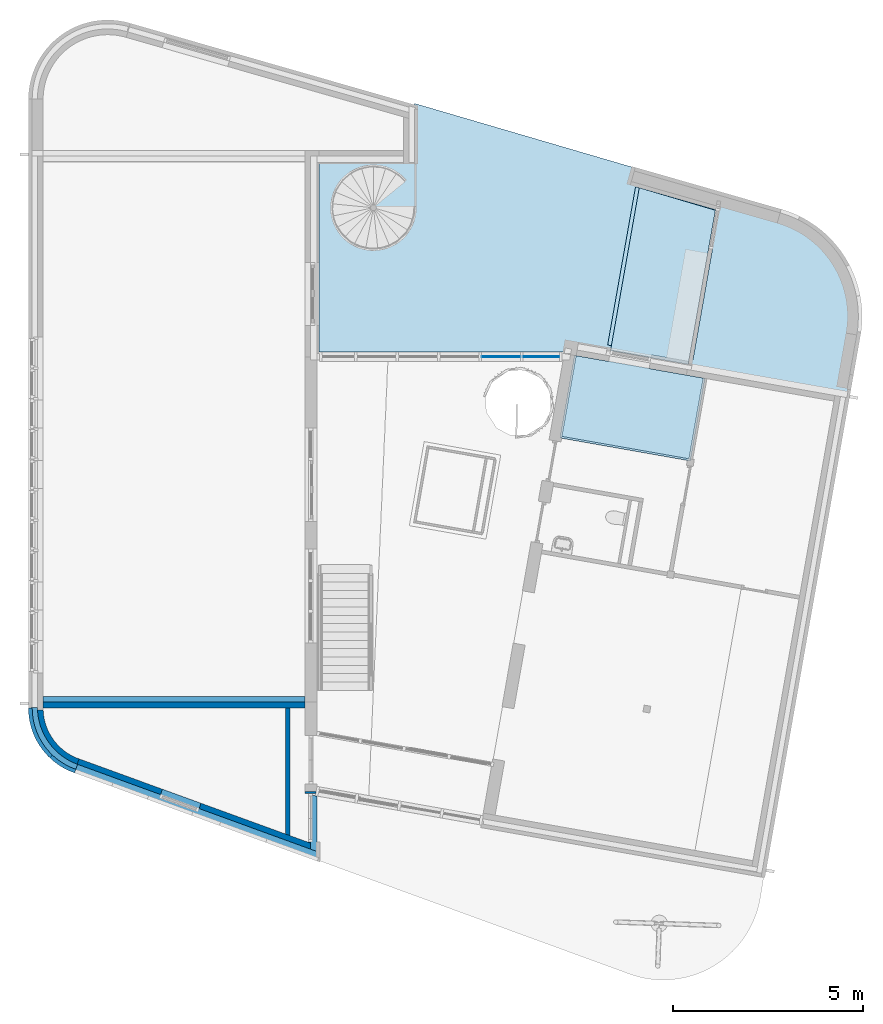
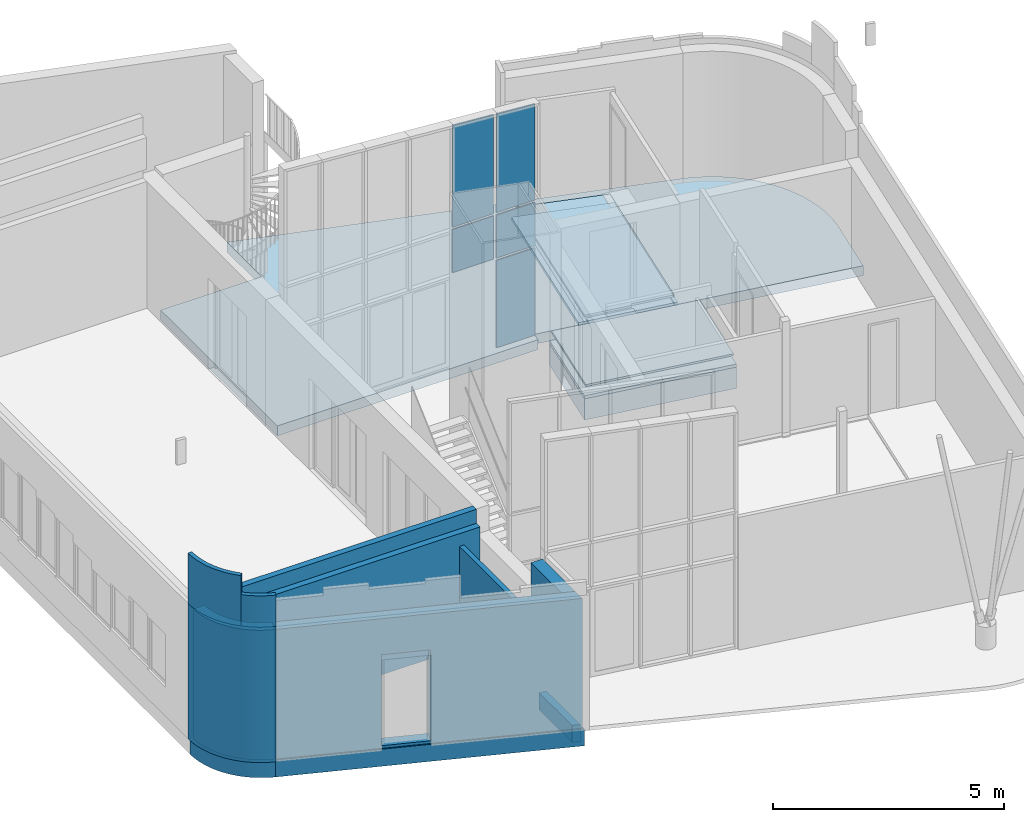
# One storey, part 10 of 21: 12 walls, 7 slabs, 5 plates, 2 openings, 1 element without a shape of its own.
"""IFC2X3 building model written with IfcOpenShell, lengths in millimetres."""

from ifc_helpers import new_model, entity, si_unit, converted_unit, derived_unit, direction, frame, frame_2d, origin, origin_2d_with_axis, place, context, subcontext, project, spatial, polyline, circle_curve, parameter, trimmed, segment, composite_curve, rectangle, outline, extrude, clip, bounded_halfspace, source, transform, mapped, material, layer, layer_set, layer_usage, type_object, type_shapes, element, aggregate, save


model = new_model("IFC2X3")

# Units and contexts
model_context = context("Model", 3, precision=0.01, world=origin(), true_north=direction((6.12303176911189e-17, 1.0)))
body_context = subcontext(model_context, "Body", "Model", "MODEL_VIEW")
ifc_project = project(units=[si_unit("LENGTHUNIT", "METRE", prefix="MILLI"), si_unit("AREAUNIT", "SQUARE_METRE"), si_unit("VOLUMEUNIT", "CUBIC_METRE"), converted_unit("PLANEANGLEUNIT", "DEGREE", entity("IfcRatioMeasure", 0.0174532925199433), si_unit("PLANEANGLEUNIT", "RADIAN"), dimensions=[0, 0, 0, 0, 0, 0, 0]), si_unit("MASSUNIT", "GRAM", prefix="KILO"), derived_unit("MASSDENSITYUNIT", [(si_unit("MASSUNIT", "GRAM", prefix="KILO"), 1), (si_unit("LENGTHUNIT", "METRE"), -3)]), si_unit("TIMEUNIT", "SECOND"), si_unit("FREQUENCYUNIT", "HERTZ"), si_unit("THERMODYNAMICTEMPERATUREUNIT", "DEGREE_CELSIUS"), derived_unit("THERMALTRANSMITTANCEUNIT", [(si_unit("MASSUNIT", "GRAM", prefix="KILO"), 1), (si_unit("THERMODYNAMICTEMPERATUREUNIT", "KELVIN"), -1), (si_unit("TIMEUNIT", "SECOND"), -3)]), derived_unit("VOLUMETRICFLOWRATEUNIT", [(si_unit("LENGTHUNIT", "METRE"), 3), (si_unit("TIMEUNIT", "SECOND"), -1)]), si_unit("ELECTRICCURRENTUNIT", "AMPERE"), si_unit("ELECTRICVOLTAGEUNIT", "VOLT"), si_unit("POWERUNIT", "WATT"), si_unit("FORCEUNIT", "NEWTON", prefix="KILO"), si_unit("ILLUMINANCEUNIT", "LUX"), si_unit("LUMINOUSFLUXUNIT", "LUMEN"), si_unit("LUMINOUSINTENSITYUNIT", "CANDELA"), derived_unit("USERDEFINED", [(si_unit("MASSUNIT", "GRAM", prefix="KILO"), -1), (si_unit("LENGTHUNIT", "METRE"), -2), (si_unit("TIMEUNIT", "SECOND"), 3), (si_unit("LUMINOUSFLUXUNIT", "LUMEN"), 1)]), derived_unit("LINEARVELOCITYUNIT", [(si_unit("LENGTHUNIT", "METRE"), 1), (si_unit("TIMEUNIT", "SECOND"), -1)]), si_unit("PRESSUREUNIT", "PASCAL"), derived_unit("USERDEFINED", [(si_unit("LENGTHUNIT", "METRE"), -2), (si_unit("MASSUNIT", "GRAM", prefix="KILO"), 1), (si_unit("TIMEUNIT", "SECOND"), -2)])], contexts=[model_context])

# Site, building, storey
site_placement = place(None, origin())
site = spatial("IfcSite", under=ifc_project, at=site_placement, Name="<Kadaster Gemeente>;<Kadaster nummer>;<Kadaster sectie>", CompositionType="ELEMENT")
building_placement = place(site_placement, origin())
building = spatial("IfcBuilding", under=site, at=building_placement, Name="JRCZ Middelburg", CompositionType="ELEMENT")
storey_placement = place(building_placement, origin())
storey = spatial("IfcBuildingStorey", under=building, at=storey_placement, Name="00 begane grond", CompositionType="ELEMENT", Elevation=0.0)

# Slab
ifc_material_1 = material(Name="RBM_f2_beton_prefab_gen")
ifc_layer_1 = layer(ifc_material_1, 260.0)
ifc_layer_set_1 = layer_set([ifc_layer_1], Name="Floor:RBM_23_FL_kanaalplaat-200mm_gen_rsf")
ifc_layer_usage_1 = layer_usage(ifc_layer_set_1, "AXIS3", "POSITIVE", 0.0)
slab_type_1 = type_object("IfcSlabType", Name="Floor:RBM_23_FL_kanaalplaat-200mm_gen_rsf", PredefinedType="FLOOR", material=ifc_layer_set_1)
slab_1_placement = place(storey_placement, origin())
element("IfcSlab", 1, at=slab_1_placement, inside=storey, type_object=slab_type_1, material=ifc_layer_usage_1, Name="Floor:RBM_23_FL_kanaalplaat-200mm_gen_rsf", ObjectType="Floor:RBM_23_FL_kanaalplaat-200mm_gen_rsf", PredefinedType="FLOOR", context=body_context, shape_type="SweptSolid", body=[
    extrude(outline(composite_curve([segment(polyline([(-2121.66625137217, -7295.94980181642), (2921.68540300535, -7295.94980181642)]), True, "CONTINUOUS"), segment(polyline([(2921.68540300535, -7295.94980181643), (2921.68540300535, -4774.31694097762)]), True, "CONTINUOUS"), segment(polyline([(2921.68540300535, -4774.31694097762), (4425.78273875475, -4774.31694097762)]), True, "CONTINUOUS"), segment(polyline([(4425.78273875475, -4774.31694097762), (1597.83055203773, 4890.05923230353)]), True, "CONTINUOUS"), segment(trimmed(circle_curve(frame_2d((-1207.13107671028, 4085.74942802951), x_axis=(0.961261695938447, 0.275637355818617)), 2918.0), [parameter(0.0)], [parameter(84.0000000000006)], True, "PARAMETER"), True, "CONTINUOUS"), segment(polyline([(-1713.83645914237, 6959.41845131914), (-3223.36861544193, 6693.24720391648)]), True, "CONTINUOUS"), segment(polyline([(-3223.36861544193, 6693.24720391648), (-2473.55578427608, 2440.84732640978)]), True, "CONTINUOUS"), segment(polyline([(-2473.55578427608, 2440.84732640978), (1608.03955632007, 3159.95435976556)]), True, "CONTINUOUS"), segment(polyline([(1608.03955632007, 3159.95435976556), (2201.23065038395, 1153.17582655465)]), True, "CONTINUOUS"), segment(polyline([(2201.23065038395, 1153.17582655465), (-2112.31414554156, 390.81042128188)]), True, "CONTINUOUS"), segment(polyline([(-2112.31414554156, 390.81042128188), (-1909.84679636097, -754.771440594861)]), True, "CONTINUOUS"), segment(polyline([(-1909.84679636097, -754.771440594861), (-2121.66625137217, -792.207895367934)]), True, "CONTINUOUS"), segment(polyline([(-2121.66625137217, -792.207895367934), (-2121.66625137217, -7295.94980181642)]), True, "CONTINUOUS")], self_intersect=False)), frame((24711.9498018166, 21360.3145969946, -200.0), z_axis=(0.0, 0.0, -1.0), x_axis=(0.0, 1.0, 0.0)), (0.0, 0.0, 1.0), 260.0),
])

# Curtain wall, plates
curtain_wall_type = type_object("IfcCurtainWallType", Name="Curtain Wall:Vliesgevel C", PredefinedType="NOTDEFINED")
curtain_wall_placement = place(storey_placement, origin())
curtain_wall = element("IfcCurtainWall", 2, at=curtain_wall_placement, inside=storey, type_object=curtain_wall_type, Name="Curtain Wall:Vliesgevel C", ObjectType="Curtain Wall:Vliesgevel C")
ifc_material_2 = material(Name="<Unnamed>")
ifc_layer_2 = layer(ifc_material_2, 24.0)
ifc_layer_set_2 = layer_set([ifc_layer_2], Name="System Panel:31_CWP_glas_1")
ifc_layer_usage_2 = layer_usage(ifc_layer_set_2, "AXIS3", "POSITIVE", 0.187007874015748)
plate_type_1 = type_object("IfcPlateType", Name="31_CWP_glas_1", PredefinedType="CURTAIN_PANEL", material=ifc_layer_set_2)
shared_shape_1 = source(origin(), body_context, "Body", "SweptSolid", [
    extrude(rectangle(XDim=24.0, YDim=959.103849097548, at=frame_2d((-4.44089209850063e-15, 0.0), x_axis=(1.0, 0.0))), frame((0.0, 57.0, 0.0), z_axis=(0.0, 0.0, 1.0), x_axis=(0.0, 1.0, 0.0)), (0.0, 0.0, 1.0), 2299.5),
])
type_shapes(plate_type_1, [shared_shape_1])
plate_1_placement = place(curtain_wall_placement, frame((23278.3899539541, 19046.62338787, 67.0)))
plate_1 = element("IfcPlate", 3, at=plate_1_placement, type_object=plate_type_1, material=ifc_layer_usage_2, Name="System Panel:31_CWP_glas_1", ObjectType="System Panel:31_CWP_glas_1", context=body_context, shape_type="MappedRepresentation", body=[
    mapped(shared_shape_1, transform((0.0, 0.0, 0.0), scale=1.0)),
])
ifc_layer_usage_3 = layer_usage(ifc_layer_set_2, "AXIS3", "POSITIVE", 0.187007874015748)
plate_type_2 = type_object("IfcPlateType", Name="31_CWP_glas_1", PredefinedType="CURTAIN_PANEL", material=ifc_layer_set_2)
shared_shape_2 = source(origin(), body_context, "Body", "SweptSolid", [
    extrude(rectangle(XDim=24.0, YDim=1027.72709861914, at=frame_2d((-4.44089209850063e-15, -1.13686837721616e-13), x_axis=(1.0, 0.0))), frame((0.0, 57.0, 0.0), z_axis=(0.0, 0.0, 1.0), x_axis=(0.0, 1.0, 0.0)), (0.0, 0.0, 1.0), 1133.0),
])
type_shapes(plate_type_2, [shared_shape_2])
plate_2_placement = place(curtain_wall_placement, frame((22217.9744800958, 19046.62338787, 2433.5)))
plate_2 = element("IfcPlate", 4, at=plate_2_placement, type_object=plate_type_2, material=ifc_layer_usage_3, Name="System Panel:31_CWP_glas_1", ObjectType="System Panel:31_CWP_glas_1", context=body_context, shape_type="MappedRepresentation", body=[
    mapped(shared_shape_2, transform((0.0, 0.0, 0.0), scale=1.0)),
])
ifc_layer_usage_4 = layer_usage(ifc_layer_set_2, "AXIS3", "POSITIVE", 0.187007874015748)
plate_type_3 = type_object("IfcPlateType", Name="31_CWP_glas_1", PredefinedType="CURTAIN_PANEL", material=ifc_layer_set_2)
shared_shape_3 = source(origin(), body_context, "Body", "SweptSolid", [
    extrude(rectangle(XDim=24.0, YDim=959.103849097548, at=frame_2d((-4.44089209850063e-15, 0.0), x_axis=(1.0, 0.0))), frame((0.0, 57.0, 0.0), z_axis=(0.0, 0.0, 1.0), x_axis=(0.0, 1.0, 0.0)), (0.0, 0.0, 1.0), 1133.0),
])
type_shapes(plate_type_3, [shared_shape_3])
plate_3_placement = place(curtain_wall_placement, frame((23278.3899539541, 19046.62338787, 2433.5)))
plate_3 = element("IfcPlate", 5, at=plate_3_placement, type_object=plate_type_3, material=ifc_layer_usage_4, Name="System Panel:31_CWP_glas_1", ObjectType="System Panel:31_CWP_glas_1", context=body_context, shape_type="MappedRepresentation", body=[
    mapped(shared_shape_3, transform((0.0, 0.0, 0.0), scale=1.0)),
])
ifc_layer_usage_5 = layer_usage(ifc_layer_set_2, "AXIS3", "POSITIVE", 0.187007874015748)
plate_type_4 = type_object("IfcPlateType", Name="31_CWP_glas_1", PredefinedType="CURTAIN_PANEL", material=ifc_layer_set_2)
shared_shape_4 = source(origin(), body_context, "Body", "SweptSolid", [
    extrude(outline(polyline([(-1326.61599293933, -513.863549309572), (1364.57025349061, -513.863549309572), (1288.66173238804, 513.863549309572), (-1326.61599293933, 513.863549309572), (-1326.61599293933, -513.863549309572)])), frame((0.0, 45.0, 1326.61599293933), z_axis=(0.0, 1.0, 0.0), x_axis=(0.0, 0.0, 1.0)), (0.0, 0.0, 1.0), 24.0),
])
type_shapes(plate_type_4, [shared_shape_4])
plate_4_placement = place(curtain_wall_placement, frame((22217.9744800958, 19046.62338787, 3633.5)))
plate_4 = element("IfcPlate", 6, at=plate_4_placement, type_object=plate_type_4, material=ifc_layer_usage_5, Name="System Panel:31_CWP_glas_1", ObjectType="System Panel:31_CWP_glas_1", context=body_context, shape_type="MappedRepresentation", body=[
    mapped(shared_shape_4, transform((0.0, 0.0, 0.0), scale=1.0)),
])
ifc_layer_usage_6 = layer_usage(ifc_layer_set_2, "AXIS3", "POSITIVE", 0.187007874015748)
plate_type_5 = type_object("IfcPlateType", Name="31_CWP_glas_1", PredefinedType="CURTAIN_PANEL", material=ifc_layer_set_2)
shared_shape_5 = source(origin(), body_context, "Body", "SweptSolid", [
    extrude(outline(polyline([(-1287.45454118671, -479.551924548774), (1322.87452518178, -479.551924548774), (1252.03455719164, 479.551924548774), (-1287.45454118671, 479.551924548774), (-1287.45454118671, -479.551924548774)])), frame((0.0, 45.0, 1287.45454118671), z_axis=(0.0, 1.0, 0.0), x_axis=(0.0, 0.0, 1.0)), (0.0, 0.0, 1.0), 24.0),
])
type_shapes(plate_type_5, [shared_shape_5])
plate_5_placement = place(curtain_wall_placement, frame((23278.3899539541, 19046.62338787, 3633.5)))
plate_5 = element("IfcPlate", 7, at=plate_5_placement, type_object=plate_type_5, material=ifc_layer_usage_6, Name="System Panel:31_CWP_glas_1", ObjectType="System Panel:31_CWP_glas_1", context=body_context, shape_type="MappedRepresentation", body=[
    mapped(shared_shape_5, transform((0.0, 0.0, 0.0), scale=1.0)),
])
aggregate(curtain_wall, [plate_1, plate_2, plate_3, plate_4, plate_5])

# Slabs
ifc_material_3 = material(Name="RBM_f2_beton_ihwg C20-25")
ifc_layer_3 = layer(ifc_material_3, 80.0)
ifc_layer_set_3 = layer_set([ifc_layer_3], Name="Floor:RBM_23_FL_gewapende druklaag gevlinderd")
ifc_layer_usage_7 = layer_usage(ifc_layer_set_3, "AXIS3", "POSITIVE", 0.0)
slab_type_2 = type_object("IfcSlabType", Name="Floor:RBM_23_FL_gewapende druklaag gevlinderd", PredefinedType="FLOOR", material=ifc_layer_set_3)
slab_2_placement = place(storey_placement, origin())
element("IfcSlab", 8, at=slab_2_placement, inside=storey, type_object=slab_type_2, material=ifc_layer_usage_7, Name="Floor:RBM_23_FL_gewapende druklaag gevlinderd", ObjectType="Floor:RBM_23_FL_gewapende druklaag gevlinderd", PredefinedType="FLOOR", context=body_context, shape_type="SweptSolid", body=[
    extrude(rectangle(XDim=2209.24038765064, YDim=3499.24038765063, at=frame_2d((-5.00222085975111e-12, -3.5242919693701e-12), x_axis=(1.0, 0.0))), frame((25683.80847774, 17751.9860733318, -250.0), z_axis=(0.0, 0.0, -1.0), x_axis=(-0.173648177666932, -0.984807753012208, 0.0)), (0.0, 0.0, 1.0), 80.0),
])
ifc_material_4 = material(Name="RBM_n7_isolatie_hsb_245")
ifc_layer_4 = layer(ifc_material_4, 560.0)
ifc_layer_set_4 = layer_set([ifc_layer_4], Name="Floor:RBM_23_FL_tempex 690mm")
ifc_layer_usage_8 = layer_usage(ifc_layer_set_4, "AXIS3", "POSITIVE", 0.0)
slab_type_3 = type_object("IfcSlabType", Name="Floor:RBM_23_FL_tempex 690mm", PredefinedType="FLOOR", material=ifc_layer_set_4)
slab_3_placement = place(storey_placement, origin())
element("IfcSlab", 9, at=slab_3_placement, inside=storey, type_object=slab_type_3, material=ifc_layer_usage_8, Name="Floor:RBM_23_FL_tempex 690mm", ObjectType="Floor:RBM_23_FL_tempex 690mm", PredefinedType="FLOOR", context=body_context, shape_type="SweptSolid", body=[
    extrude(rectangle(XDim=2209.24038765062, YDim=3499.24038765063, at=frame_2d((-3.63797880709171e-12, -1.70530256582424e-12), x_axis=(1.0, 0.0))), frame((25683.80847774, 17751.9860733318, -330.0), z_axis=(0.0, 0.0, -1.0), x_axis=(-0.173648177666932, -0.984807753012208, 0.0)), (0.0, 0.0, 1.0), 560.0),
])
ifc_layer_usage_9 = layer_usage(ifc_layer_set_1, "AXIS3", "POSITIVE", 0.0)
slab_type_4 = type_object("IfcSlabType", Name="Floor:RBM_23_FL_kanaalplaat-200mm_gen_rsf", PredefinedType="FLOOR", material=ifc_layer_set_1)
slab_4_placement = place(storey_placement, origin())
element("IfcSlab", 10, at=slab_4_placement, inside=storey, type_object=slab_type_4, material=ifc_layer_usage_9, Name="Floor:RBM_23_FL_kanaalplaat-200mm_gen_rsf", ObjectType="Floor:RBM_23_FL_kanaalplaat-200mm_gen_rsf", PredefinedType="FLOOR", context=body_context, shape_type="SweptSolid", body=[
    extrude(outline(polyline([(-2003.43613425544, -1039.94489755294), (2121.17031969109, -1039.94489755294), (2121.17031969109, 1039.94489755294), (-2238.90450512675, 1039.94489755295), (-2003.43613425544, -1039.94489755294)])), frame((26499.6101696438, 21176.1345983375, -250.0), z_axis=(0.0, 0.0, -1.0), x_axis=(-0.173788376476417, -0.984783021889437, 0.0)), (0.0, 0.0, 1.0), 260.0),
])
ifc_material_5 = material(Name="RBM_h2_staal_vloerrooster")
ifc_layer_5 = layer(ifc_material_5, 50.0)
ifc_layer_set_5 = layer_set([ifc_layer_5], Name="Floor:RBM_43_FL_roostervloer")
ifc_layer_usage_10 = layer_usage(ifc_layer_set_5, "AXIS3", "POSITIVE", 0.0)
slab_type_5 = type_object("IfcSlabType", Name="Floor:RBM_43_FL_roostervloer", PredefinedType="FLOOR", material=ifc_layer_set_5)
slab_5_placement = place(storey_placement, origin())
element("IfcSlab", 11, at=slab_5_placement, inside=storey, type_object=slab_type_5, material=ifc_layer_usage_10, Name="Floor:RBM_43_FL_roostervloer", ObjectType="Floor:RBM_43_FL_roostervloer", PredefinedType="FLOOR", context=body_context, shape_type="SweptSolid", body=[
    extrude(outline(polyline([(-2677.67275640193, -1025.75685243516), (1368.78560556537, -1025.75685243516), (1368.78560556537, -28.6511997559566), (1426.78560556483, -28.6511997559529), (1426.78560556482, 1054.40805219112), (-2913.46966585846, 1054.40805219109), (-2677.67275640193, -1025.75685243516)])), frame((26396.757866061, 20509.4820709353, 0.0), z_axis=(0.0, 0.0, -1.0), x_axis=(-0.173648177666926, -0.984807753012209, 0.0)), (0.0, 0.0, 1.0), 50.0),
])
ifc_layer_usage_11 = layer_usage(ifc_layer_set_5, "AXIS3", "POSITIVE", 0.0)
slab_type_6 = type_object("IfcSlabType", Name="Floor:RBM_43_FL_roostervloer", PredefinedType="FLOOR", material=ifc_layer_set_5)
slab_6_placement = place(storey_placement, origin())
element("IfcSlab", 12, at=slab_6_placement, inside=storey, type_object=slab_type_6, material=ifc_layer_usage_11, Name="Floor:RBM_43_FL_roostervloer", ObjectType="Floor:RBM_43_FL_roostervloer", PredefinedType="FLOOR", context=body_context, shape_type="SweptSolid", body=[
    extrude(outline(polyline([(-491.499999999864, -1844.84253192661), (1668.50000000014, -1844.84253192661), (1668.50000000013, 1555.15746807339), (-491.499999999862, 1555.15746807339), (-491.499999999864, 686.842531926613), (-685.500000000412, 686.842531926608), (-685.500000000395, -397.157468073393), (-491.499999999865, -397.15746807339), (-491.499999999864, -1844.84253192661)])), frame((25647.2595976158, 18381.0091881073, 0.0), z_axis=(0.0, 0.0, -1.0), x_axis=(-0.17364817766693, -0.984807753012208, 0.0)), (0.0, 0.0, 1.0), 50.0),
])
ifc_layer_usage_12 = layer_usage(ifc_layer_set_3, "AXIS3", "POSITIVE", 0.0)
slab_type_7 = type_object("IfcSlabType", Name="Floor:RBM_23_FL_gewapende druklaag gevlinderd", PredefinedType="FLOOR", material=ifc_layer_set_3)
slab_7_placement = place(storey_placement, origin())
element("IfcSlab", 13, at=slab_7_placement, inside=storey, type_object=slab_type_7, material=ifc_layer_usage_12, Name="Floor:RBM_23_FL_gewapende druklaag gevlinderd", ObjectType="Floor:RBM_23_FL_gewapende druklaag gevlinderd", PredefinedType="FLOOR", context=body_context, shape_type="SweptSolid", body=[
    extrude(outline(polyline([(-1939.61688688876, -1140.5528263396), (2059.49381948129, -1140.5528263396), (2059.49381948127, 1140.55282633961), (-2179.37075207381, 1140.55282633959), (-1939.61688688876, -1140.5528263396)])), frame((26511.5039004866, 21245.4457876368, -250.0), z_axis=(0.0, 0.0, -1.0), x_axis=(-0.173648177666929, -0.984807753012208, 0.0)), (0.0, 0.0, 1.0), 80.0),
])

# Wall
ifc_material_6 = material(Name="RBM_i4_multiplex_beplating")
ifc_layer_6 = layer(ifc_material_6, 18.0)
ifc_material_7 = material(Name="isolatie_steenwol_hsb_270")
ifc_layer_7 = layer(ifc_material_7, 270.0)
ifc_layer_8 = layer(ifc_material_6, 18.0)
ifc_layer_set_6 = layer_set([ifc_layer_6, ifc_layer_7, ifc_layer_8], Name="Basic Wall:22_WA_hsb_binnenwand_306mm")
ifc_layer_usage_13 = layer_usage(ifc_layer_set_6, "AXIS2", "NEGATIVE", 153.0)
wall_type_1 = type_object("IfcWallType", Name="Basic Wall:22_WA_hsb_binnenwand_306mm", PredefinedType="STANDARD", material=ifc_layer_set_6)
wall_1_placement = place(storey_placement, frame((17050.0, 9997.0, -80.0), z_axis=(0.0, 0.0, 1.0), x_axis=(-1.0, 0.0, 0.0)))
element("IfcWallStandardCase", 14, at=wall_1_placement, inside=storey, type_object=wall_type_1, material=ifc_layer_usage_13, Name="Basic Wall:22_WA_hsb_binnenwand_306mm", ObjectType="Basic Wall:22_WA_hsb_binnenwand_306mm", context=body_context, shape_type="SweptSolid", body=[
    extrude(rectangle(XDim=6900.0, YDim=306.0, at=frame_2d((3450.0, -1.06581410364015e-12), x_axis=(-1.0, 0.0))), origin(), (0.0, 0.0, 1.0), 3045.0),
])

# Wall, opening
ifc_layer_9 = layer(ifc_material_7, 270.0)
ifc_layer_10 = layer(ifc_material_6, 18.0)
ifc_layer_set_7 = layer_set([ifc_layer_9, ifc_layer_10], Name="Basic Wall:21_RBM_WA_hsb_270mm -  geïsoleerd")
ifc_layer_usage_14 = layer_usage(ifc_layer_set_7, "AXIS2", "POSITIVE", -144.0)
wall_type_2 = type_object("IfcWallType", Name="Basic Wall:21_RBM_WA_hsb_270mm -  geïsoleerd", PredefinedType="STANDARD", material=ifc_layer_set_7)
wall_2_placement = place(storey_placement, frame((17200.0, 6233.57866799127, 0.0), z_axis=(0.0, 0.0, 1.0), x_axis=(0.0, 1.0, 0.0)))
wall_2 = element("IfcWallStandardCase", 15, at=wall_2_placement, inside=storey, type_object=wall_type_2, material=ifc_layer_usage_14, Name="Basic Wall:21_RBM_WA_hsb_270mm -  geïsoleerd", ObjectType="Basic Wall:21_RBM_WA_hsb_270mm -  geïsoleerd", context=body_context, shape_type="SweptSolid", body=[
    extrude(outline(polyline([(0.0, -144.0), (1415.044956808, -144.0), (1415.04495680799, 144.0), (104.823427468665, 144.0), (0.0, -144.0)])), origin(), (0.0, 0.0, 1.0), 3350.0),
])
opening_1_placement = place(wall_2_placement, origin())
element("IfcOpeningElement", 16, at=opening_1_placement, cuts=wall_2, Name="Basic Wall:21_RBM_WA_hsb_270mm -  geïsoleerd", ObjectType="Opening", context=body_context, shape_type="SweptSolid", body=[
    extrude(rectangle(XDim=2400.0, YDim=1280.0, at=origin_2d_with_axis()), frame((718.383495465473, -296.399999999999, 1200.0), z_axis=(0.0, 1.0, 0.0), x_axis=(0.0, 0.0, 1.0)), (0.0, 0.0, 1.0), 592.8),
])

ifc_layer_usage_15 = layer_usage(ifc_layer_set_7, "AXIS2", "POSITIVE", -144.0)
wall_3_placement = place(storey_placement, frame((11048.3642880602, 8371.76107368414, -70.0), z_axis=(0.0, 0.0, 1.0), x_axis=(0.93969262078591, -0.342020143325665, 0.0)))
wall_3 = element("IfcWallStandardCase", 17, at=wall_3_placement, inside=storey, type_object=wall_type_2, material=ifc_layer_usage_15, Name="Basic Wall:21_RBM_WA_hsb_270mm -  geïsoleerd", ObjectType="Basic Wall:21_RBM_WA_hsb_270mm -  geïsoleerd", context=body_context, shape_type="SweptSolid", body=[
    extrude(outline(polyline([(6752.08730198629, -144.0), (6647.26387451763, 144.0), (0.0, 144.0), (0.0, -144.0), (6752.08730198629, -144.0)])), origin(), (0.0, 0.0, 1.0), 3420.0),
])
opening_2_placement = place(wall_3_placement, origin())
element("IfcOpeningElement", 18, at=opening_2_placement, cuts=wall_3, Name="Basic Wall:21_RBM_WA_hsb_270mm -  geïsoleerd", ObjectType="Opening", context=body_context, shape_type="SweptSolid", body=[
    extrude(rectangle(XDim=2400.0, YDim=1084.0, at=origin_2d_with_axis()), frame((2880.90891550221, -296.400000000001, 1270.0), z_axis=(0.0, 1.0, 0.0), x_axis=(0.0, 0.0, 1.0)), (0.0, 0.0, 1.0), 592.799999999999),
])

# Walls
ifc_layer_usage_16 = layer_usage(ifc_layer_set_7, "AXIS2", "POSITIVE", -144.0)
wall_4_placement = place(storey_placement, frame((11049.4464960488, 8371.19306263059, -70.0)))
element("IfcWallStandardCase", 19, at=wall_4_placement, inside=storey, type_object=wall_type_2, material=ifc_layer_usage_16, Name="Basic Wall:21_RBM_WA_hsb_270mm -  geïsoleerd", ObjectType="Basic Wall:21_RBM_WA_hsb_270mm -  geïsoleerd", context=body_context, shape_type="SweptSolid", body=[
    extrude(outline(composite_curve([segment(trimmed(circle_curve(frame_2d((522.823697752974, 1476.43903648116), x_axis=(1.0, 0.0)), 1710.27483136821), [parameter(182.131811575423)], [parameter(250.50037193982)], True, "PARAMETER"), True, "CONTINUOUS"), segment(polyline([(-48.0673065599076, -135.74068675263), (48.067306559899, 135.740686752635)]), True, "CONTINUOUS"), segment(trimmed(circle_curve(frame_2d((522.823697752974, 1476.43903648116), x_axis=(1.0, 0.0)), 1422.27483136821), [parameter(182.131811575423)], [parameter(250.50037193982)], True, "PARAMETER"), False, "CONTINUOUS"), segment(polyline([(-898.466769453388, 1423.53247949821), (-1186.26744308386, 1412.81929799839)]), True, "CONTINUOUS")], self_intersect=False)), origin(), (0.0, 0.0, 1.0), 3420.0),
])
ifc_material_8 = material(Name="steenachtig_ntb_plaat_antraciet")
ifc_layer_11 = layer(ifc_material_8, 20.0)
ifc_material_9 = material(Name="RBM_n7_isolatie_hsb_100")
ifc_layer_12 = layer(ifc_material_9, 100.0)
ifc_layer_set_8 = layer_set([ifc_layer_11, ifc_layer_12], Name="Basic Wall:21_hsb_100mm")
ifc_layer_usage_17 = layer_usage(ifc_layer_set_8, "AXIS2", "NEGATIVE", 60.0)
wall_type_3 = type_object("IfcWallType", Name="Basic Wall:21_hsb_100mm", PredefinedType="STANDARD", material=ifc_layer_set_8)
wall_5_placement = place(storey_placement, frame((16596.0, 6483.99018916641, 0.0), z_axis=(0.0, 0.0, 1.0), x_axis=(0.0, 1.0, 0.0)))
element("IfcWallStandardCase", 20, at=wall_5_placement, inside=storey, type_object=wall_type_3, material=ifc_layer_usage_17, Name="Basic Wall:21_hsb_100mm", ObjectType="Basic Wall:21_hsb_100mm", context=body_context, shape_type="SweptSolid", body=[
    extrude(outline(polyline([(3360.00981083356, -60.0), (3360.00981083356, 60.0), (43.6764281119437, 60.0), (0.0, -60.0), (3360.00981083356, -60.0)])), origin(), (0.0, 0.0, 1.0), 2630.0),
])
ifc_material_10 = material(Name="geisoleerde cementvezelplaat")
ifc_layer_13 = layer(ifc_material_10, 20.0)
ifc_material_11 = material(Name="RBM_n7_isolatie_resol")
ifc_layer_14 = layer(ifc_material_11, 150.0)
ifc_layer_set_9 = layer_set([ifc_layer_13, ifc_layer_14], Name="Basic Wall:RBM_21_WA_170mm_geïsoleerde_kantplank")
ifc_layer_usage_18 = layer_usage(ifc_layer_set_9, "AXIS2", "NEGATIVE", 85.0)
wall_type_4 = type_object("IfcWallType", Name="Basic Wall:RBM_21_WA_170mm_geïsoleerde_kantplank", PredefinedType="STANDARD", material=ifc_layer_set_9)
wall_6_placement = place(storey_placement, frame((17399.0717121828, 5963.45242747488, -520.0), z_axis=(0.0, 0.0, 1.0), x_axis=(-0.939692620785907, 0.342020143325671, 0.0)))
element("IfcWallStandardCase", 21, at=wall_6_placement, inside=storey, type_object=wall_type_4, material=ifc_layer_usage_18, Name="Basic Wall:RBM_21_WA_170mm_geïsoleerde_kantplank", ObjectType="Basic Wall:RBM_21_WA_170mm_geïsoleerde_kantplank", context=body_context, shape_type="SweptSolid", body=[
    extrude(outline(polyline([(6778.48680088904, -85.0), (6778.48680088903, 85.0), (0.0, 85.0), (61.8749398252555, -85.0), (242.785161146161, -85.0), (6778.48680088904, -85.0)])), origin(), (0.0, 0.0, 1.0), 450.0),
])
ifc_layer_usage_19 = layer_usage(ifc_layer_set_9, "AXIS2", "POSITIVE", -85.0)
wall_7_placement = place(storey_placement, frame((11029.377685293, 8281.831454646, -520.0)))
element("IfcWallStandardCase", 22, at=wall_7_placement, inside=storey, type_object=wall_type_4, material=ifc_layer_usage_19, Name="Basic Wall:RBM_21_WA_170mm_geïsoleerde_kantplank", ObjectType="Basic Wall:RBM_21_WA_170mm_geïsoleerde_kantplank", context=body_context, shape_type="SweptSolid", body=[
    extrude(outline(composite_curve([segment(trimmed(circle_curve(frame_2d((579.263208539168, 1591.51258538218), x_axis=(1.0, 0.0)), 1778.65231797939), [parameter(180.20535450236)], [parameter(249.999999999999)], True, "PARAMETER"), True, "CONTINUOUS"), segment(polyline([(-29.0717121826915, -79.8738727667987), (29.0717121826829, 79.8738727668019)]), True, "CONTINUOUS"), segment(trimmed(circle_curve(frame_2d((579.263208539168, 1591.51258538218), x_axis=(1.0, 0.0)), 1608.65231797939), [parameter(180.215932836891)], [parameter(250.0)], True, "PARAMETER"), False, "CONTINUOUS"), segment(polyline([(-1029.37768529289, 1585.45000905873), (-1199.37768529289, 1585.13770955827)]), True, "CONTINUOUS")], self_intersect=False)), origin(), (0.0, 0.0, 1.0), 450.0),
])
ifc_layer_usage_20 = layer_usage(ifc_layer_set_9, "AXIS2", "NEGATIVE", 85.0)
wall_8_placement = place(storey_placement, frame((17285.0, 7554.8873059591, -520.0), z_axis=(0.0, 0.0, 1.0), x_axis=(0.0, -1.0, 0.0)))
element("IfcWallStandardCase", 23, at=wall_8_placement, inside=storey, type_object=wall_type_4, material=ifc_layer_usage_20, Name="Basic Wall:RBM_21_WA_170mm_geïsoleerde_kantplank", ObjectType="Basic Wall:RBM_21_WA_170mm_geïsoleerde_kantplank", context=body_context, shape_type="SweptSolid", body=[
    extrude(outline(polyline([(1428.52359010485, -85.0), (1490.39852993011, 85.0), (29.9755867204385, 85.0), (0.0, -85.0), (1428.52359010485, -85.0)])), origin(), (0.0, 0.0, 1.0), 450.0),
])
ifc_material_12 = material(Name="hout_accoya_schubben")
ifc_layer_15 = layer(ifc_material_12, 30.0)
ifc_material_13 = material(Name="hout_vuren_regel")
ifc_layer_16 = layer(ifc_material_13, 35.0)
ifc_layer_17 = layer(ifc_material_13, 35.0)
ifc_layer_set_10 = layer_set([ifc_layer_15, ifc_layer_16, ifc_layer_17], Name="Basic Wall:RBM_21_WA_gevelbekleding op regelwerk_100mm")
ifc_layer_usage_21 = layer_usage(ifc_layer_set_10, "AXIS2", "POSITIVE", -50.0)
wall_type_5 = type_object("IfcWallType", Name="Basic Wall:RBM_21_WA_gevelbekleding op regelwerk_100mm", PredefinedType="STANDARD", material=ifc_layer_set_10)
wall_9_placement = place(storey_placement, frame((10997.8118593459, 8183.7175151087, -70.0)))
element("IfcWallStandardCase", 24, at=wall_9_placement, inside=storey, type_object=wall_type_5, material=ifc_layer_usage_21, Name="Basic Wall:RBM_21_WA_gevelbekleding op regelwerk_100mm", ObjectType="Basic Wall:RBM_21_WA_gevelbekleding op regelwerk_100mm", context=body_context, shape_type="SweptSolid", body=[
    extrude(outline(composite_curve([segment(trimmed(circle_curve(frame_2d((574.481076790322, 1663.91687151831), x_axis=(1.0, 0.0)), 1810.29766315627), [parameter(180.130935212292)], [parameter(250.925664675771)], True, "PARAMETER"), True, "CONTINUOUS"), segment(polyline([(-17.1144099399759, -46.9871027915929), (16.3177253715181, 47.2623723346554)]), True, "CONTINUOUS"), segment(trimmed(circle_curve(frame_2d((574.481076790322, 1663.91687151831), x_axis=(1.0, 0.0)), 1710.29766315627), [parameter(180.134708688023)], [parameter(250.952342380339)], True, "PARAMETER"), False, "CONTINUOUS"), segment(polyline([(-1135.81185934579, 1659.89577704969), (-1235.81185934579, 1659.77989136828)]), True, "CONTINUOUS")], self_intersect=False)), origin(), (0.0, 0.0, 1.0), 3570.0),
])
ifc_layer_usage_22 = layer_usage(ifc_layer_set_10, "AXIS2", "POSITIVE", -50.0)
wall_10_placement = place(storey_placement, frame((10997.8118593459, 8183.7175151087, 3500.0)))
element("IfcWallStandardCase", 25, at=wall_10_placement, inside=storey, type_object=wall_type_5, material=ifc_layer_usage_22, Name="Basic Wall:RBM_21_WA_gevelbekleding op regelwerk_100mm", ObjectType="Basic Wall:RBM_21_WA_gevelbekleding op regelwerk_100mm", context=body_context, shape_type="SweptSolid", body=[
    extrude(outline(composite_curve([segment(trimmed(circle_curve(frame_2d((574.481076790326, 1663.91687151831), x_axis=(1.0, 0.0)), 1810.29766315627), [parameter(226.474831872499)], [parameter(250.925664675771)], True, "PARAMETER"), True, "CONTINUOUS"), segment(polyline([(-17.1144099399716, -46.9871027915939), (16.3177253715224, 47.2623723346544)]), True, "CONTINUOUS"), segment(trimmed(circle_curve(frame_2d((574.481076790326, 1663.91687151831), x_axis=(1.0, 0.0)), 1710.29766315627), [parameter(226.474831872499)], [parameter(250.952342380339)], True, "PARAMETER"), False, "CONTINUOUS"), segment(polyline([(-603.354988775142, 423.82804435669), (-672.222302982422, 351.320851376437)]), True, "CONTINUOUS")], self_intersect=False)), origin(), (0.0, 0.0, 1.0), 827.981832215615),
])
ifc_layer_usage_23 = layer_usage(ifc_layer_set_10, "AXIS2", "POSITIVE", -50.0)
wall_11_placement = place(storey_placement, frame((10360.0232134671, 8571.29196297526, 3500.0)))
element("IfcWallStandardCase", 26, at=wall_11_placement, inside=storey, type_object=wall_type_5, material=ifc_layer_usage_23, Name="Basic Wall:RBM_21_WA_gevelbekleding op regelwerk_100mm", ObjectType="Basic Wall:RBM_21_WA_gevelbekleding op regelwerk_100mm", context=body_context, shape_type="SweptSolid", body=[
    extrude(outline(composite_curve([segment(trimmed(circle_curve(frame_2d((1212.2697226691, 1276.34242365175), x_axis=(1.0, 0.0)), 1810.29766315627), [parameter(180.130935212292)], [parameter(226.474831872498)], True, "PARAMETER"), True, "CONTINUOUS"), segment(polyline([(-34.4336571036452, -36.2535964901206), (34.4336571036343, 36.2535964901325)]), True, "CONTINUOUS"), segment(trimmed(circle_curve(frame_2d((1212.2697226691, 1276.34242365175), x_axis=(1.0, 0.0)), 1710.29766315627), [parameter(180.134708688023)], [parameter(226.474831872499)], True, "PARAMETER"), False, "CONTINUOUS"), segment(polyline([(-498.023213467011, 1272.32132918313), (-598.02321346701, 1272.20544350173)]), True, "CONTINUOUS")], self_intersect=False)), origin(), (0.0, 0.0, 1.0), 1327.98183221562),
])
ifc_layer_18 = layer(ifc_material_7, 132.0)
ifc_layer_19 = layer(ifc_material_6, 18.0)
ifc_layer_set_11 = layer_set([ifc_layer_18, ifc_layer_19], Name="Basic Wall:22_hsb_270 passtrook")
ifc_layer_usage_24 = layer_usage(ifc_layer_set_11, "AXIS2", "NEGATIVE", 75.0)
wall_type_6 = type_object("IfcWallType", Name="Basic Wall:22_hsb_270 passtrook", PredefinedType="STANDARD", material=ifc_layer_set_11)
wall_12_placement = place(storey_placement, frame((17050.0, 10075.0, 2965.0), z_axis=(0.0, 0.0, 1.0), x_axis=(-1.0, 0.0, 0.0)))
element("IfcWallStandardCase", 27, at=wall_12_placement, inside=storey, type_object=wall_type_6, material=ifc_layer_usage_24, Name="Basic Wall:22_hsb_270 passtrook", ObjectType="Basic Wall:22_hsb_270 passtrook", context=body_context, shape_type="Clipping", body=[
    clip(clip(extrude(rectangle(XDim=6900.0, YDim=150.000000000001, at=frame_2d((3450.0, -1.05160324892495e-12), x_axis=(-1.0, 0.0))), origin(), (0.0, 0.0, 1.0), 370.0), bounded_halfspace(frame((0.0, -75.0, 370.0), z_axis=(0.0, 0.0, -1.0), x_axis=(0.0, -1.0, 0.0)), True, frame((0.0, -75.0, 370.0)), polyline([(0.0, 0.0), (6900.0, 0.0), (6900.0, 150.0), (0.0, 150.0), (0.0, 0.0)]))), bounded_halfspace(frame((6900.0, -75.0, 0.0), z_axis=(0.0, 0.0, 1.0), x_axis=(0.0, 1.0, 0.0)), True, frame((6900.0, -75.0, 0.0), z_axis=(0.0, 0.0, 1.0), x_axis=(0.0, 1.0, 0.0)), polyline([(0.0, 0.0), (150.0, 0.0), (150.0, 6900.0), (0.0, 6900.0), (0.0, 0.0)]))),
])

save(model, "model.ifc")
